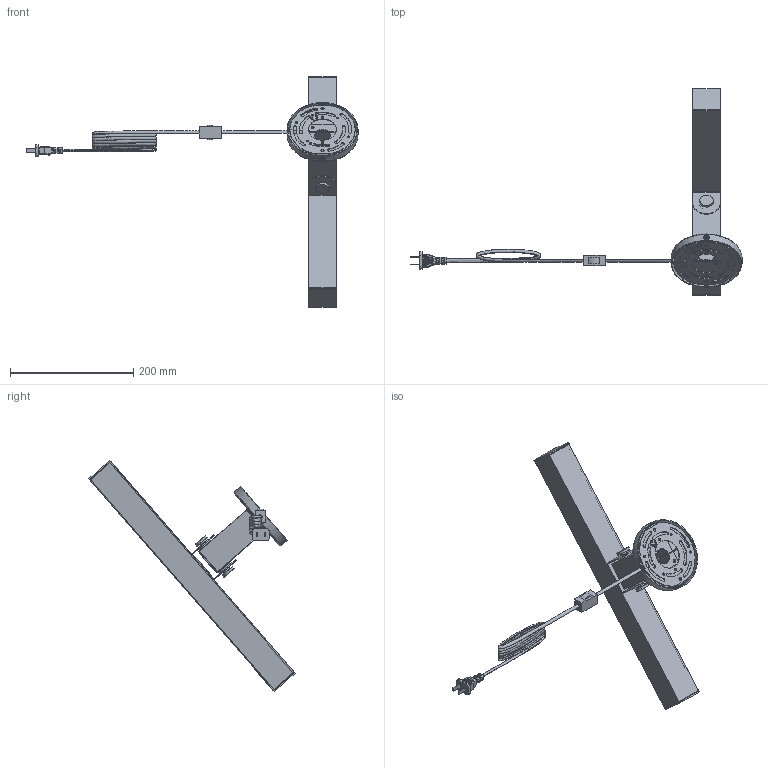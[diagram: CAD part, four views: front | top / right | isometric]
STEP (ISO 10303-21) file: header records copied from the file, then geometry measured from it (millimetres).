
FILE_DESCRIPTION((''),'2;1');
FILE_NAME('PIC10-E0_ASM','2024-12-17T',('steven.luo'),(''),'PRO/ENGINEER BY PARAMETRIC TECHNOLOGY CORPORATION, 2009360','PRO/ENGINEER BY PARAMETRIC TECHNOLOGY CORPORATION, 2009360','');
FILE_SCHEMA(('AUTOMOTIVE_DESIGN_CC2 { 1 2 10303 214 -1 1 5 2 }'));
Length unit declared in the file: millimetre
Products named in the file (17): PIC10-01; SJW4407-11; PIC10-02; PIC10-13; PIC10-14; PIC10-E2_ASM; 7TDD120101BK; PIC10-04; PIC10-07; RFALL32W-37; PIC10-06; SLT-532; PIC10-05; PIC10-08; PIC10-E3_ASM; PIC10-11; PIC10-E0_ASM
Assembly tree (23 placements, depth 3):
  PIC10-E0_ASM
    PIC10-01
    SJW4407-11
    PIC10-E2_ASM
      PIC10-02
      PIC10-13
      PIC10-14
    7TDD120101BK  x4
    PIC10-04
    PIC10-07  x2
    RFALL32W-37
    PIC10-06  x2
    SLT-532  x2
    PIC10-E3_ASM
      PIC10-05
      PIC10-08  x2
    PIC10-11
Bounding box: 537.8 x 334.09 x 374.17 mm (x, y, z)
Volume: 367712.6 mm3; surface area: 339548.7 mm2
Topology: 23 solids, 30 shells, 815 faces, 2083 edges, 1310 vertices
Faces by surface type: plane 392, cylinder 325, sphere 48, cone 24, bspline 18, torus 8
Entity records: 50436 total; most frequent: CARTESIAN_POINT 29795, DIRECTION 3987, ORIENTED_EDGE 3758, EDGE_CURVE 1891, AXIS2_PLACEMENT_3D 1431, VERTEX_POINT 1216, VECTOR 1125, LINE 1125
